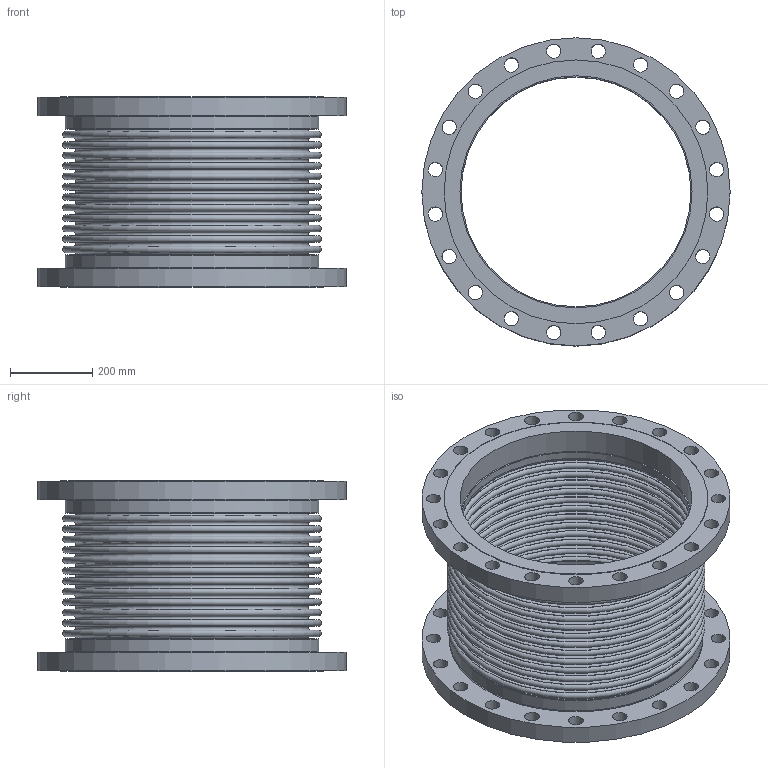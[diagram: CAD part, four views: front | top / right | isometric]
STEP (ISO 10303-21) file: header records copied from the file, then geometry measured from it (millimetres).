
FILE_DESCRIPTION(/* description */ ('EXPANSION JOINT,SINGLE, FLANGED ENDS,22 INCH','CAx-IF Rec.Pracs.---Representation and Presentation of Product Manufacturing Information (PMI)---4.0---2014-10-13'),/* implementation_level */ '2;1');
FILE_NAME(/* name */ 'US-22-12-300L-FLANGED ENDS.stp',/* time_stamp */ '2026-07-31T17:42:41-05:00',/* author */ ('Guadalupe'),/* organization */ (''),/* preprocessor_version */ 'ST-DEVELOPER v20.1',/* originating_system */ 'Autodesk Inventor 2026',/* authorisation */ '');
FILE_SCHEMA (('AP242_MANAGED_MODEL_BASED_3D_ENGINEERING_MIM_LF { 1 0 10303 442 2 1 4 }'));
Length unit declared in the file: inch
Products named in the file (3): 22-300L; 22-300L-02; 22-300L-01
Assembly tree (3 placements, depth 2):
  22-300L
    22-300L-02  x2
    22-300L-01
Bounding box: 749.3 x 749.3 x 463.8 mm (x, y, z)
Volume: 24228588.8 mm3; surface area: 5173425.5 mm2
Topology: 5 solids, 5 shells, 168 faces, 318 edges, 212 vertices
Faces by surface type: plane 62, torus 54, cylinder 52
Full cylindrical faces by diameter (mm): 34.925 x40, 558.8 x2, 564.388 x2, 564.896 x2, 615.95 x2, 641.35 x2, 749.3 x2
Entity records: 3762 total; most frequent: DIRECTION 766, CARTESIAN_POINT 561, ORIENTED_EDGE 480, AXIS2_PLACEMENT_3D 369, EDGE_CURVE 240, EDGE_LOOP 236, CIRCLE 212, VERTEX_POINT 160
